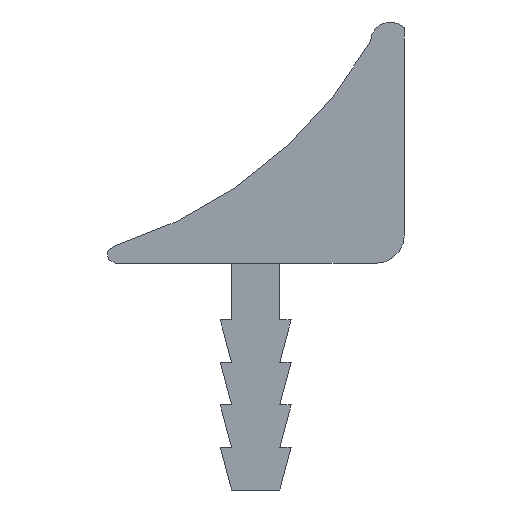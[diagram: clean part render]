
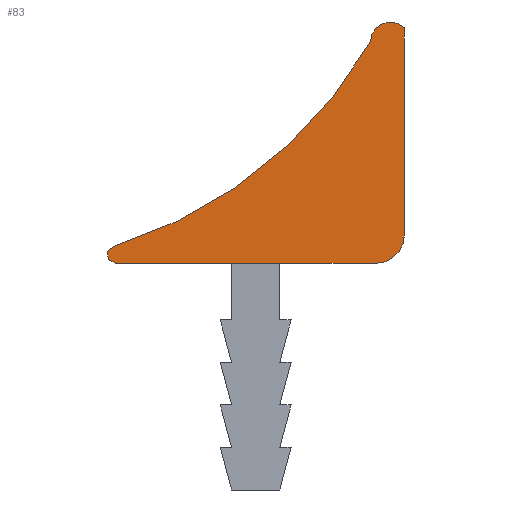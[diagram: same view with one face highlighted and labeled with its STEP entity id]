
A CAD part, left-side view. The second image highlights one B-rep face of the part: STEP entity #83.
In plain terms, the highlighted planar face has unit normal (-1, 0, 0).
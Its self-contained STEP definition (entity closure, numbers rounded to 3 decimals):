
#83 = ADVANCED_FACE( '', ( #174 ), #175, .F. );
#174 = FACE_OUTER_BOUND( '', #269, .T. );
#175 = PLANE( '', #270 );
#269 = EDGE_LOOP( '', ( #454, #455, #456, #457, #458, #459 ) );
#270 = AXIS2_PLACEMENT_3D( '', #460, #461, #462 );
#454 = ORIENTED_EDGE( '', *, *, #658, .F. );
#455 = ORIENTED_EDGE( '', *, *, #652, .F. );
#456 = ORIENTED_EDGE( '', *, *, #659, .F. );
#457 = ORIENTED_EDGE( '', *, *, #660, .F. );
#458 = ORIENTED_EDGE( '', *, *, #603, .F. );
#459 = ORIENTED_EDGE( '', *, *, #661, .T. );
#460 = CARTESIAN_POINT( '', ( -30., 8.923, 23.868 ) );
#461 = DIRECTION( '', ( 1., 0., 0. ) );
#462 = DIRECTION( '', ( 0., 0., -1. ) );
#603 = EDGE_CURVE( '', #724, #725, #726, .T. );
#652 = EDGE_CURVE( '', #800, #802, #803, .T. );
#658 = EDGE_CURVE( '', #802, #810, #811, .T. );
#659 = EDGE_CURVE( '', #812, #800, #813, .T. );
#660 = EDGE_CURVE( '', #725, #812, #814, .T. );
#661 = EDGE_CURVE( '', #724, #810, #815, .T. );
#724 = VERTEX_POINT( '', #898 );
#725 = VERTEX_POINT( '', #899 );
#726 = CIRCLE( '', #900, 0.7 );
#800 = VERTEX_POINT( '', #1008 );
#802 = VERTEX_POINT( '', #1011 );
#803 = LINE( '', #1012, #1013 );
#810 = VERTEX_POINT( '', #1023 );
#811 = CIRCLE( '', #1024, 0.3 );
#812 = VERTEX_POINT( '', #1025 );
#813 = CIRCLE( '', #1026, 1. );
#814 = LINE( '', #1027, #1028 );
#815 = CIRCLE( '', #1029, 16. );
#898 = CARTESIAN_POINT( '', ( -30., -4.9, 15.81 ) );
#899 = CARTESIAN_POINT( '', ( -30., -6.1, 16.3 ) );
#900 = AXIS2_PLACEMENT_3D( '', #1093, #1094, #1095 );
#1008 = CARTESIAN_POINT( '', ( -30., -5.1, 8. ) );
#1011 = CARTESIAN_POINT( '', ( -30., 4.1, 8. ) );
#1012 = CARTESIAN_POINT( '', ( -30., -5.1, 8. ) );
#1013 = VECTOR( '', #1143, 1000. );
#1023 = CARTESIAN_POINT( '', ( -30., 4.162, 8.593 ) );
#1024 = AXIS2_PLACEMENT_3D( '', #1147, #1148, #1149 );
#1025 = CARTESIAN_POINT( '', ( -30., -6.1, 9. ) );
#1026 = AXIS2_PLACEMENT_3D( '', #1150, #1151, #1152 );
#1027 = CARTESIAN_POINT( '', ( -30., -6.1, 16.3 ) );
#1028 = VECTOR( '', #1153, 1000. );
#1029 = AXIS2_PLACEMENT_3D( '', #1154, #1155, #1156 );
#1093 = CARTESIAN_POINT( '', ( -30., -5.6, 15.81 ) );
#1094 = DIRECTION( '', ( 1., 0., 0. ) );
#1095 = DIRECTION( '', ( 0., 0., -1. ) );
#1143 = DIRECTION( '', ( 0., 1., 0. ) );
#1147 = CARTESIAN_POINT( '', ( -30., 4.098, 8.3 ) );
#1148 = DIRECTION( '', ( 1., 0., 0. ) );
#1149 = DIRECTION( '', ( 0., 0., -1. ) );
#1150 = CARTESIAN_POINT( '', ( -30., -5.1, 9. ) );
#1151 = DIRECTION( '', ( 1., 0., 0. ) );
#1152 = DIRECTION( '', ( 0., 0., -1. ) );
#1153 = DIRECTION( '', ( 0., 0., -1. ) );
#1154 = CARTESIAN_POINT( '', ( -30., 8.923, 23.868 ) );
#1155 = DIRECTION( '', ( 1., 0., 0. ) );
#1156 = DIRECTION( '', ( 0., 0., -1. ) );
